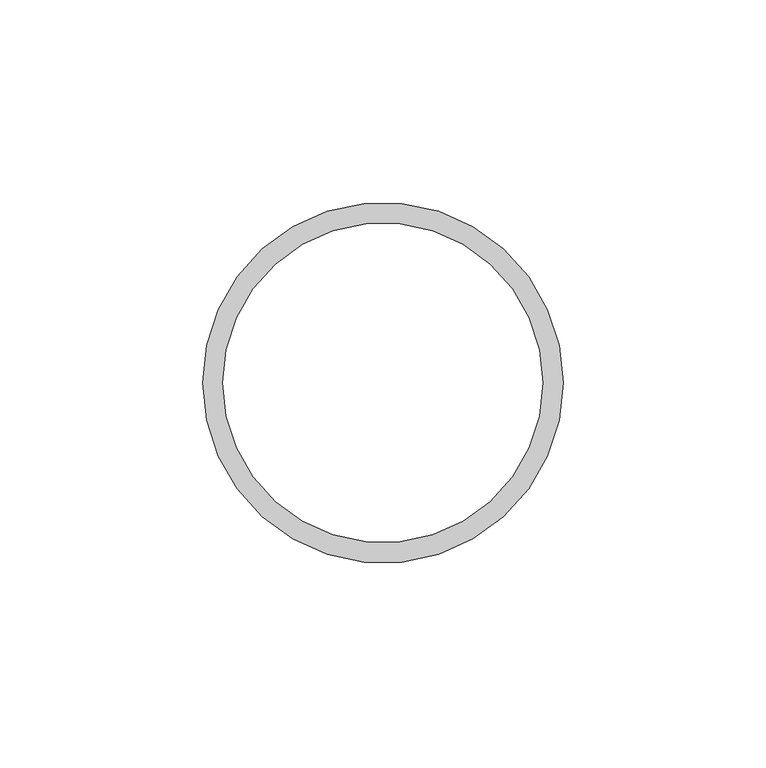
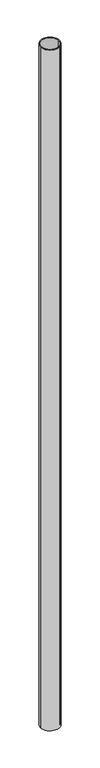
"""IFC4 building model written with IfcOpenShell, lengths in millimetres: column geometry, NLRS_28_SC_TLB_kolom buis_generiek_ISR : ø88.9x5 ."""

from ifc_helpers import new_model, si_unit, point, frame, origin, origin_2d, place, context, project, spatial, circle_curve, trimmed, segment, composite_curve, outline, extrude, source, transform, mapped, element, save


def column_496c960e(model_context):
    return source(origin(), model_context, "Body", "SweptSolid", [
        extrude(outline(composite_curve([segment(trimmed(circle_curve(origin_2d(), 44.45), [point((44.45, 0.0))], [point((-44.45, 0.0))], False, "CARTESIAN"), True, "CONTINUOUS"), segment(trimmed(circle_curve(origin_2d(), 44.45), [point((-44.45, 0.0))], [point((44.45, 0.0))], False, "CARTESIAN"), True, "CONTINUOUS")], self_intersect=False), holes=[composite_curve([segment(trimmed(circle_curve(origin_2d(), 39.45), [point((39.45, 0.0))], [point((-39.45, 0.0))], True, "CARTESIAN"), True, "CONTINUOUS"), segment(trimmed(circle_curve(origin_2d(), 39.45), [point((-39.45, 0.0))], [point((39.45, 0.0))], True, "CARTESIAN"), True, "CONTINUOUS")], self_intersect=False)]), frame((0.0, 0.0, 3500.0), z_axis=(0.0, 0.0, 1.0), x_axis=(1.0, 0.0, 0.0)), (0.0, 0.0, 1.0), 3300.0),
    ])


if __name__ == "__main__":
    model = new_model("IFC4")
    model_context = context("Model", 3, world=origin())
    ifc_project = project(units=[si_unit("LENGTHUNIT", "METRE", prefix="MILLI")], contexts=[model_context])
    site = spatial("IfcSite", under=ifc_project)
    building = spatial("IfcBuilding", under=site)
    placement = place(None, origin())
    column_shape = column_496c960e(model_context)
    element("IfcColumn", 1, ObjectType="NLRS_28_SC_TLB_kolom buis_generiek_ISR : ø88.9x5 ", at=placement, inside=building, context=model_context, shape_type="MappedRepresentation", body=[
        mapped(column_shape, transform((0.0, 0.0, 0.0), x_axis=(1.0, 0.0, 0.0), y_axis=(0.0, 1.0, 0.0), z_axis=(0.0, 0.0, 1.0))),
    ])
    save(model, "model.ifc")
